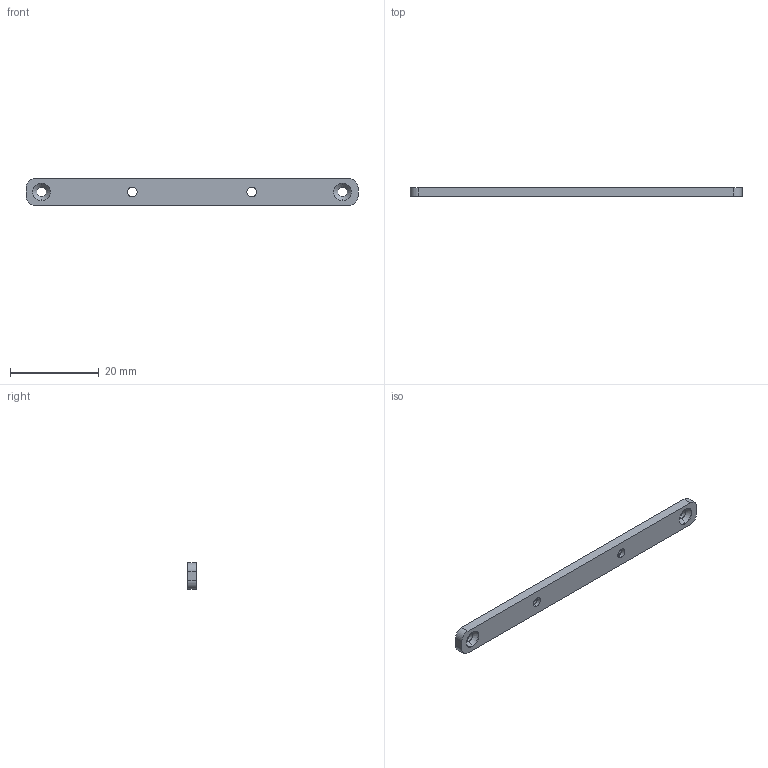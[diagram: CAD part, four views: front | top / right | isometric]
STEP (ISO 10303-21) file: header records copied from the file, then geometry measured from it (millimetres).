
FILE_DESCRIPTION (( 'STEP AP203' ), '1' );
FILE_NAME ('菜輸7.STEP', '2026-09-24T08:54:11', ( '' ), ( '' ), 'SwSTEP 2.0', 'SolidWorks 2016', '' );
FILE_SCHEMA (( 'CONFIG_CONTROL_DESIGN' ));
Length unit declared in the file: millimetre
Products named in the file (1): 菜輸7
Bounding box: 75 x 2 x 6 mm (x, y, z)
Volume: 841.5 mm3; surface area: 1229.3 mm2
Topology: 1 solids, 1 shells, 34 faces, 80 edges, 48 vertices
Faces by surface type: cylinder 20, cone 8, plane 6
Entity records: 1069 total; most frequent: DIRECTION 190, CARTESIAN_POINT 163, ORIENTED_EDGE 160, EDGE_CURVE 80, AXIS2_PLACEMENT_3D 75, VERTEX_POINT 48, EDGE_LOOP 42, CIRCLE 40
